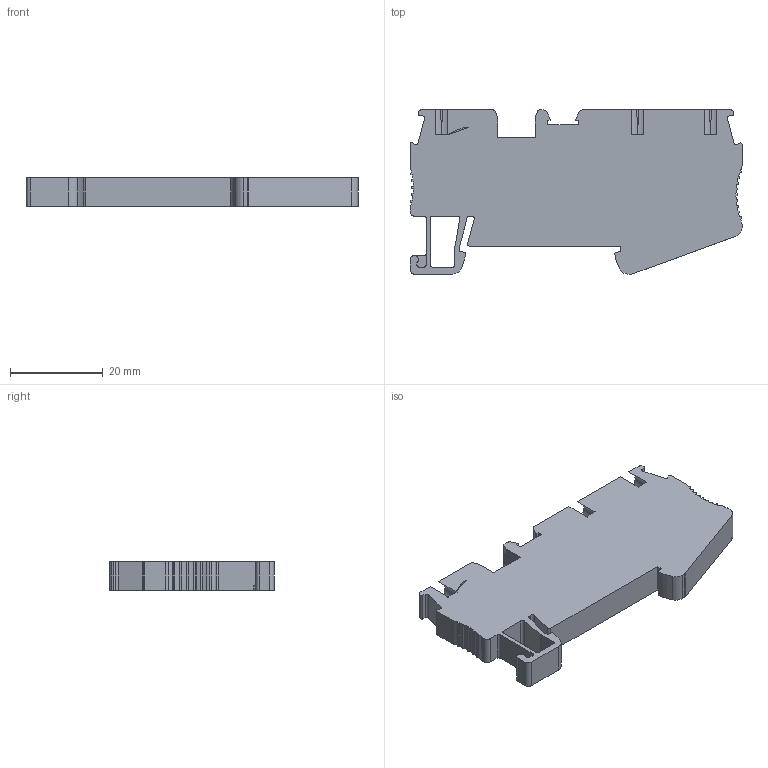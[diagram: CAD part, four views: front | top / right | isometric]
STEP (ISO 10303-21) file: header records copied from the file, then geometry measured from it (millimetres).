
FILE_DESCRIPTION(/* description */ (''),/* implementation_level */ '2;1');
FILE_NAME(/* name */ '815212_MTS_TO4.stp',/* time_stamp */ '2019-03-14T16:55:04+08:00',/* author */ (''),/* organization */ (''),/* preprocessor_version */ 'ST-DEVELOPER v11',/* originating_system */ 'SIEMENS UGS NX 6.0',/* authorisation */ '');
FILE_SCHEMA (('AUTOMOTIVE_DESIGN { 1 0 10303 214 1 1 1 1 }'));
Length unit declared in the file: millimetre
Products named in the file (1): 815212_MTS_TO4
Bounding box: 71.6 x 35.4 x 6.2 mm (x, y, z)
Surface area: 6871.3 mm2 (no closed solid volume)
Topology: 0 solids, 1 shells, 256 faces, 752 edges, 498 vertices
Faces by surface type: plane 160, cylinder 87, bspline 9
Entity records: 11496 total; most frequent: CARTESIAN_POINT 2782, ORIENTED_EDGE 1532, DIRECTION 1396, EDGE_CURVE 766, LINE 532, VECTOR 532, VERTEX_POINT 521, AXIS2_PLACEMENT_3D 432
